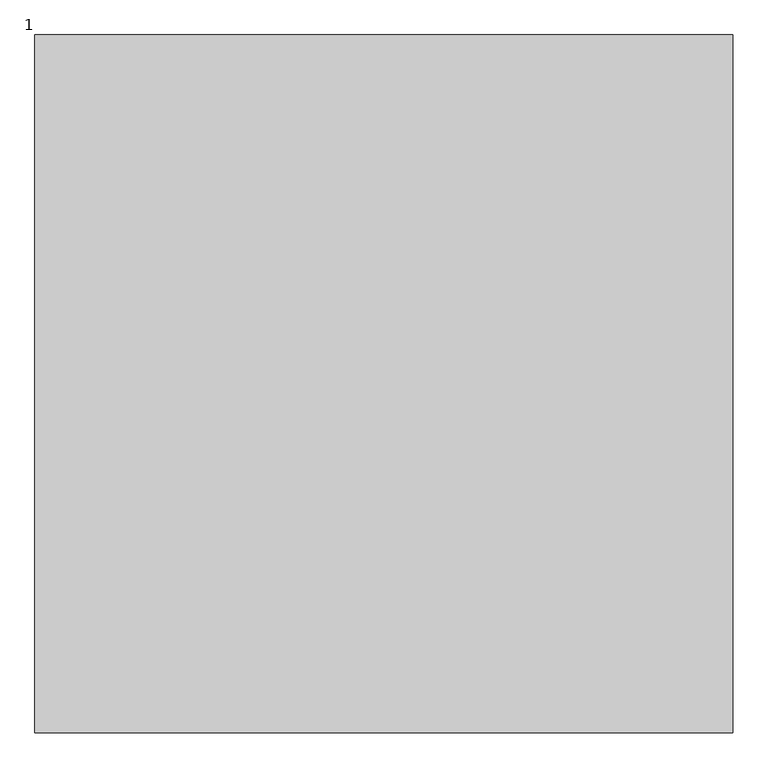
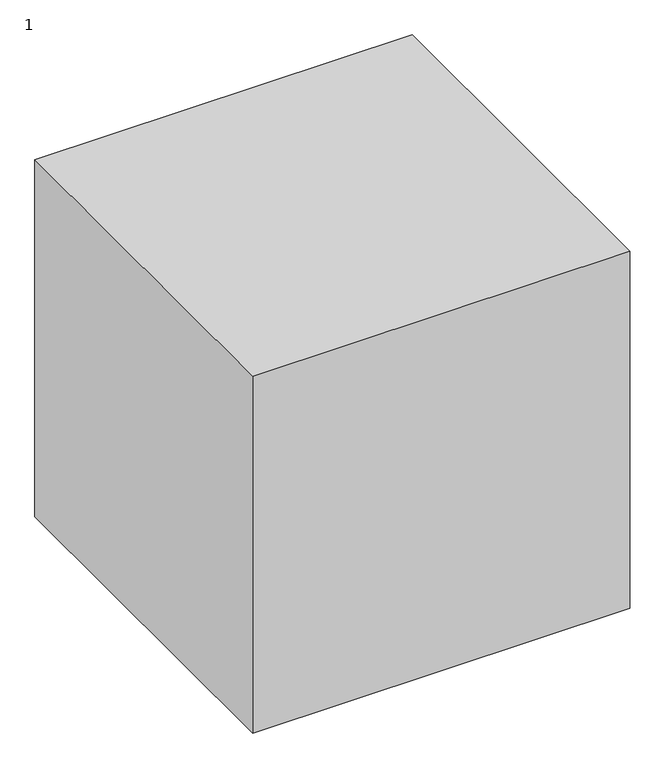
"""IFC4 building model written with IfcOpenShell, lengths in millimetres: proxy geometry, 12221111 : 1."""

from ifc_helpers import new_model, si_unit, origin, origin_with_axes, place, context, project, spatial, polyline, outline, extrude, source, transform, mapped, element, save


def proxy_1_6aff34ba(model_context):
    return source(origin(), model_context, "Body", "SweptSolid", [
        extrude(outline(polyline([(9692.0243292, 11335.2294472), (9692.0243292, 10335.2294472), (8692.0243292, 10335.2294472), (8692.0243292, 11335.2294472), (9692.0243292, 11335.2294472)])), origin_with_axes(), (0.0, 0.0, 1.0), 1000.0),
    ])


if __name__ == "__main__":
    model = new_model("IFC4")
    model_context = context("Model", 3, world=origin())
    ifc_project = project(units=[si_unit("LENGTHUNIT", "METRE", prefix="MILLI")], contexts=[model_context])
    site = spatial("IfcSite", under=ifc_project)
    building = spatial("IfcBuilding", under=site)
    placement = place(None, origin())
    proxy_1_shape = proxy_1_6aff34ba(model_context)
    element("IfcBuildingElementProxy", 1, Name="12221111 : 1", ObjectType="12221111 : 1", at=placement, inside=building, context=model_context, shape_type="MappedRepresentation", body=[
        mapped(proxy_1_shape, transform((0.0, 0.0, 0.0), x_axis=(1.0, 0.0, 0.0), y_axis=(0.0, 1.0, 0.0), z_axis=(0.0, 0.0, 1.0))),
    ])
    save(model, "model.ifc")
